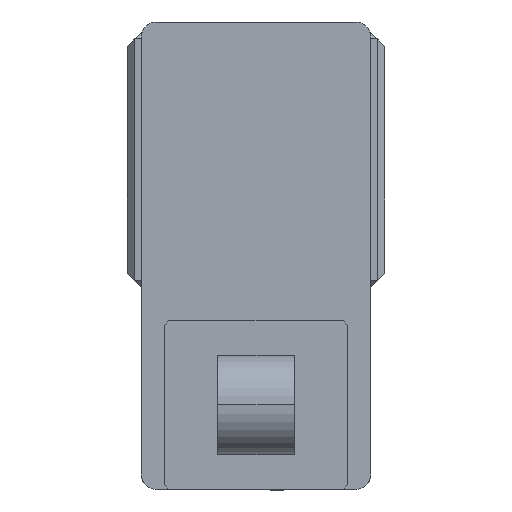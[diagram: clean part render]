
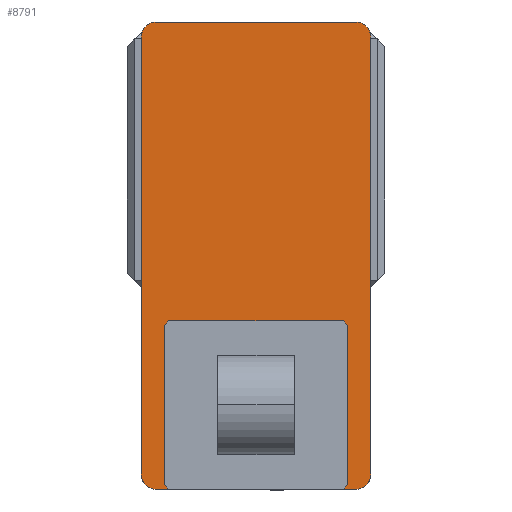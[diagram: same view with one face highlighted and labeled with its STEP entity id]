
A CAD part, left-side view. The second image highlights one B-rep face of the part: STEP entity #8791.
In plain terms, the highlighted planar face has unit normal (-1, 0, 0) as drawn and (0, 0, 1) by its records, which use the part's own axes.
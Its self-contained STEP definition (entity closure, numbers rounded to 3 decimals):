
#232 = CARTESIAN_POINT ( 'NONE',  ( -65., -152.5, 105. ) ) ;
#1188 = CARTESIAN_POINT ( 'NONE',  ( 75., 142.5, 105. ) ) ;
#1242 = VECTOR ( 'NONE', #6113, 1000. ) ;
#1468 = CARTESIAN_POINT ( 'NONE',  ( -65., 142.5, 105. ) ) ;
#1589 = CARTESIAN_POINT ( 'NONE',  ( -75., 142.5, 105. ) ) ;
#1738 = EDGE_CURVE ( 'NONE', #8739, #11151, #10562, .T. ) ;
#1829 = PLANE ( 'NONE',  #5627 ) ;
#2400 = DIRECTION ( 'NONE',  ( 1., 0., 0. ) ) ;
#2635 = EDGE_LOOP ( 'NONE', ( #7299, #8892, #11417, #9474, #10722, #8438, #7235, #5278 ) ) ;
#2653 = LINE ( 'NONE', #9716, #11708 ) ;
#2743 = CARTESIAN_POINT ( 'NONE',  ( 0., 0., 105. ) ) ;
#2934 = VERTEX_POINT ( 'NONE', #11246 ) ;
#2972 = CARTESIAN_POINT ( 'NONE',  ( 65., 142.5, 105. ) ) ;
#2988 = DIRECTION ( 'NONE',  ( 0., 0., 1. ) ) ;
#3706 = DIRECTION ( 'NONE',  ( 0., 0., 1. ) ) ;
#3763 = VERTEX_POINT ( 'NONE', #1589 ) ;
#3846 = AXIS2_PLACEMENT_3D ( 'NONE', #2972, #9305, #3923 ) ;
#3923 = DIRECTION ( 'NONE',  ( 1., 0., 0. ) ) ;
#3936 = CIRCLE ( 'NONE', #10040, 10. ) ;
#4059 = CARTESIAN_POINT ( 'NONE',  ( -75., 152.5, 105. ) ) ;
#4550 = CARTESIAN_POINT ( 'NONE',  ( -65., -142.5, 105. ) ) ;
#4871 = FACE_OUTER_BOUND ( 'NONE', #2635, .T. ) ;
#4986 = AXIS2_PLACEMENT_3D ( 'NONE', #4550, #10807, #5472 ) ;
#5272 = DIRECTION ( 'NONE',  ( -1., 0., 0. ) ) ;
#5278 = ORIENTED_EDGE ( 'NONE', *, *, #5554, .T. ) ;
#5472 = DIRECTION ( 'NONE',  ( 1., 0., 0. ) ) ;
#5554 = EDGE_CURVE ( 'NONE', #2934, #7115, #8700, .T. ) ;
#5627 = AXIS2_PLACEMENT_3D ( 'NONE', #2743, #3706, #10000 ) ;
#5774 = VERTEX_POINT ( 'NONE', #7532 ) ;
#6113 = DIRECTION ( 'NONE',  ( 1., 0., 0. ) ) ;
#6288 = CARTESIAN_POINT ( 'NONE',  ( -65., 152.5, 105. ) ) ;
#6425 = VERTEX_POINT ( 'NONE', #6288 ) ;
#6595 = CIRCLE ( 'NONE', #3846, 10. ) ;
#6750 = AXIS2_PLACEMENT_3D ( 'NONE', #8441, #2988, #9328 ) ;
#6759 = CARTESIAN_POINT ( 'NONE',  ( 65., -152.5, 105. ) ) ;
#7115 = VERTEX_POINT ( 'NONE', #232 ) ;
#7188 = EDGE_CURVE ( 'NONE', #3763, #2934, #7550, .T. ) ;
#7235 = ORIENTED_EDGE ( 'NONE', *, *, #7188, .T. ) ;
#7299 = ORIENTED_EDGE ( 'NONE', *, *, #7958, .T. ) ;
#7532 = CARTESIAN_POINT ( 'NONE',  ( 65., 152.5, 105. ) ) ;
#7550 = LINE ( 'NONE', #4059, #8401 ) ;
#7662 = CIRCLE ( 'NONE', #6750, 10. ) ;
#7686 = DIRECTION ( 'NONE',  ( 0., -1., 0. ) ) ;
#7721 = EDGE_CURVE ( 'NONE', #11151, #5774, #6595, .T. ) ;
#7794 = VERTEX_POINT ( 'NONE', #6759 ) ;
#7863 = DIRECTION ( 'NONE',  ( 0., 0., 1. ) ) ;
#7887 = VECTOR ( 'NONE', #9673, 1000. ) ;
#7958 = EDGE_CURVE ( 'NONE', #7115, #7794, #10901, .T. ) ;
#8401 = VECTOR ( 'NONE', #7686, 1000. ) ;
#8438 = ORIENTED_EDGE ( 'NONE', *, *, #11325, .T. ) ;
#8441 = CARTESIAN_POINT ( 'NONE',  ( 65., -142.5, 105. ) ) ;
#8700 = CIRCLE ( 'NONE', #4986, 10. ) ;
#8739 = VERTEX_POINT ( 'NONE', #9925 ) ;
#8791 = ADVANCED_FACE ( 'NONE', ( #4871 ), #1829, .T. ) ;
#8892 = ORIENTED_EDGE ( 'NONE', *, *, #8921, .T. ) ;
#8921 = EDGE_CURVE ( 'NONE', #7794, #8739, #7662, .T. ) ;
#9205 = EDGE_CURVE ( 'NONE', #5774, #6425, #2653, .T. ) ;
#9305 = DIRECTION ( 'NONE',  ( 0., 0., 1. ) ) ;
#9328 = DIRECTION ( 'NONE',  ( 1., 0., 0. ) ) ;
#9474 = ORIENTED_EDGE ( 'NONE', *, *, #7721, .T. ) ;
#9673 = DIRECTION ( 'NONE',  ( 0., 1., 0. ) ) ;
#9716 = CARTESIAN_POINT ( 'NONE',  ( -75., 152.5, 105. ) ) ;
#9925 = CARTESIAN_POINT ( 'NONE',  ( 75., -142.5, 105. ) ) ;
#10000 = DIRECTION ( 'NONE',  ( 1., 0., 0. ) ) ;
#10040 = AXIS2_PLACEMENT_3D ( 'NONE', #1468, #7863, #2400 ) ;
#10562 = LINE ( 'NONE', #10629, #7887 ) ;
#10574 = CARTESIAN_POINT ( 'NONE',  ( -75., -152.5, 105. ) ) ;
#10629 = CARTESIAN_POINT ( 'NONE',  ( 75., 152.5, 105. ) ) ;
#10722 = ORIENTED_EDGE ( 'NONE', *, *, #9205, .T. ) ;
#10807 = DIRECTION ( 'NONE',  ( 0., 0., 1. ) ) ;
#10901 = LINE ( 'NONE', #10574, #1242 ) ;
#11151 = VERTEX_POINT ( 'NONE', #1188 ) ;
#11246 = CARTESIAN_POINT ( 'NONE',  ( -75., -142.5, 105. ) ) ;
#11325 = EDGE_CURVE ( 'NONE', #6425, #3763, #3936, .T. ) ;
#11417 = ORIENTED_EDGE ( 'NONE', *, *, #1738, .T. ) ;
#11708 = VECTOR ( 'NONE', #5272, 1000. ) ;
